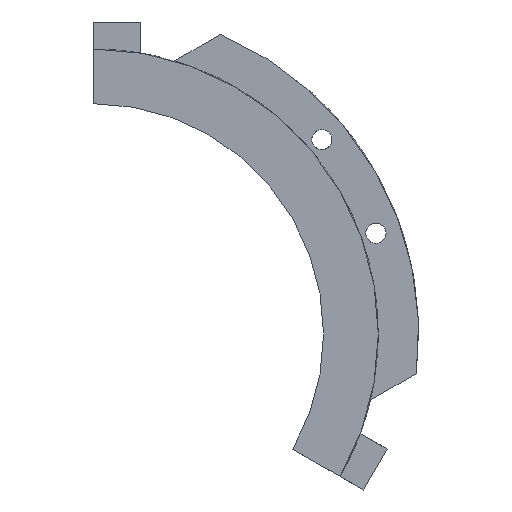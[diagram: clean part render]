
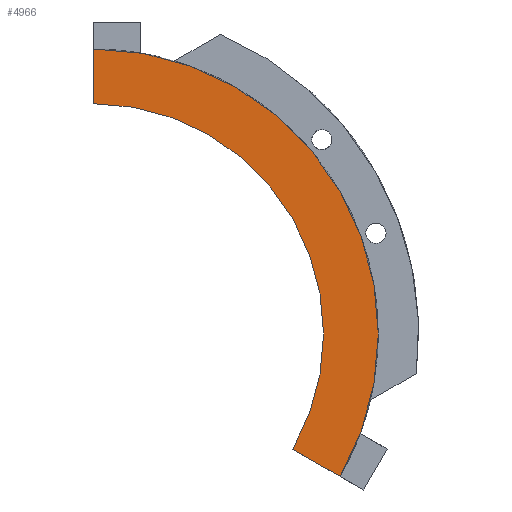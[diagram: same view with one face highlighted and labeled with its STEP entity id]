
A CAD part, left-side view. The second image highlights one B-rep face of the part: STEP entity #4966.
In plain terms, the highlighted planar face has unit normal (-1, 0, 0).
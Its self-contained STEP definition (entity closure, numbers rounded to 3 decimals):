
#32 = CYLINDRICAL_SURFACE('',#33,42.2);
#33 = AXIS2_PLACEMENT_3D('',#34,#35,#36);
#34 = CARTESIAN_POINT('',(-24.5,0.,0.));
#35 = DIRECTION('',(-1.,0.,-0.));
#36 = DIRECTION('',(0.,0.5,0.866));
#44 = PLANE('',#45);
#45 = AXIS2_PLACEMENT_3D('',#46,#47,#48);
#46 = CARTESIAN_POINT('',(-29.5,0.,200.));
#47 = DIRECTION('',(0.,1.,0.));
#48 = DIRECTION('',(0.,0.,-1.));
#101 = PLANE('',#102);
#102 = AXIS2_PLACEMENT_3D('',#103,#104,#105);
#103 = CARTESIAN_POINT('',(-29.5,0.,0.));
#104 = DIRECTION('',(0.,0.5,-0.866));
#105 = DIRECTION('',(0.,-0.866,-0.5));
#1254 = VERTEX_POINT('',#1255);
#1255 = CARTESIAN_POINT('',(-24.5,-36.546,-21.1));
#1276 = EDGE_CURVE('',#1277,#1254,#1279,.T.);
#1277 = VERTEX_POINT('',#1278);
#1278 = CARTESIAN_POINT('',(-24.5,0.,42.2));
#1279 = SURFACE_CURVE('',#1280,(#1285,#1292),.PCURVE_S1.);
#1280 = CIRCLE('',#1281,42.2);
#1281 = AXIS2_PLACEMENT_3D('',#1282,#1283,#1284);
#1282 = CARTESIAN_POINT('',(-24.5,0.,0.));
#1283 = DIRECTION('',(1.,0.,-0.));
#1284 = DIRECTION('',(0.,0.5,0.866));
#1285 = PCURVE('',#32,#1286);
#1286 = DEFINITIONAL_REPRESENTATION('',(#1287),#1291);
#1287 = LINE('',#1288,#1289);
#1288 = CARTESIAN_POINT('',(-0.,0.));
#1289 = VECTOR('',#1290,1.);
#1290 = DIRECTION('',(-1.,0.));
#1291 = ( GEOMETRIC_REPRESENTATION_CONTEXT(2) 
PARAMETRIC_REPRESENTATION_CONTEXT() REPRESENTATION_CONTEXT('2D SPACE',''
  ) );
#1292 = PCURVE('',#1293,#1298);
#1293 = PLANE('',#1294);
#1294 = AXIS2_PLACEMENT_3D('',#1295,#1296,#1297);
#1295 = CARTESIAN_POINT('',(-24.5,0.,0.
    ));
#1296 = DIRECTION('',(1.,0.,0.));
#1297 = DIRECTION('',(0.,-0.866,0.5));
#1298 = DEFINITIONAL_REPRESENTATION('',(#1299),#1303);
#1299 = CIRCLE('',#1300,42.2);
#1300 = AXIS2_PLACEMENT_2D('',#1301,#1302);
#1301 = CARTESIAN_POINT('',(0.,0.));
#1302 = DIRECTION('',(0.,-1.));
#1303 = ( GEOMETRIC_REPRESENTATION_CONTEXT(2) 
PARAMETRIC_REPRESENTATION_CONTEXT() REPRESENTATION_CONTEXT('2D SPACE',''
  ) );
#4461 = VERTEX_POINT('',#4462);
#4462 = CARTESIAN_POINT('',(-24.5,0.,34.1));
#4476 = CYLINDRICAL_SURFACE('',#4477,34.1);
#4477 = AXIS2_PLACEMENT_3D('',#4478,#4479,#4480);
#4478 = CARTESIAN_POINT('',(-24.5,0.,0.)
  );
#4479 = DIRECTION('',(-1.,0.,-0.));
#4480 = DIRECTION('',(0.,0.5,0.866));
#4488 = EDGE_CURVE('',#4461,#1277,#4489,.T.);
#4489 = SURFACE_CURVE('',#4490,(#4494,#4501),.PCURVE_S1.);
#4490 = LINE('',#4491,#4492);
#4491 = CARTESIAN_POINT('',(-24.5,0.,100.));
#4492 = VECTOR('',#4493,1.);
#4493 = DIRECTION('',(0.,0.,1.));
#4494 = PCURVE('',#44,#4495);
#4495 = DEFINITIONAL_REPRESENTATION('',(#4496),#4500);
#4496 = LINE('',#4497,#4498);
#4497 = CARTESIAN_POINT('',(100.,-5.));
#4498 = VECTOR('',#4499,1.);
#4499 = DIRECTION('',(-1.,0.));
#4500 = ( GEOMETRIC_REPRESENTATION_CONTEXT(2) 
PARAMETRIC_REPRESENTATION_CONTEXT() REPRESENTATION_CONTEXT('2D SPACE',''
  ) );
#4501 = PCURVE('',#1293,#4502);
#4502 = DEFINITIONAL_REPRESENTATION('',(#4503),#4507);
#4503 = LINE('',#4504,#4505);
#4504 = CARTESIAN_POINT('',(50.,-86.603));
#4505 = VECTOR('',#4506,1.);
#4506 = DIRECTION('',(0.5,-0.866));
#4507 = ( GEOMETRIC_REPRESENTATION_CONTEXT(2) 
PARAMETRIC_REPRESENTATION_CONTEXT() REPRESENTATION_CONTEXT('2D SPACE',''
  ) );
#4966 = ADVANCED_FACE('',(#4967),#1293,.F.);
#4967 = FACE_BOUND('',#4968,.F.);
#4968 = EDGE_LOOP('',(#4969,#4970,#4971,#4994));
#4969 = ORIENTED_EDGE('',*,*,#4488,.T.);
#4970 = ORIENTED_EDGE('',*,*,#1276,.T.);
#4971 = ORIENTED_EDGE('',*,*,#4972,.T.);
#4972 = EDGE_CURVE('',#1254,#4973,#4975,.T.);
#4973 = VERTEX_POINT('',#4974);
#4974 = CARTESIAN_POINT('',(-24.5,-29.531,-17.05));
#4975 = SURFACE_CURVE('',#4976,(#4980,#4987),.PCURVE_S1.);
#4976 = LINE('',#4977,#4978);
#4977 = CARTESIAN_POINT('',(-24.5,0.,0.
    ));
#4978 = VECTOR('',#4979,1.);
#4979 = DIRECTION('',(0.,0.866,0.5));
#4980 = PCURVE('',#1293,#4981);
#4981 = DEFINITIONAL_REPRESENTATION('',(#4982),#4986);
#4982 = LINE('',#4983,#4984);
#4983 = CARTESIAN_POINT('',(0.,0.));
#4984 = VECTOR('',#4985,1.);
#4985 = DIRECTION('',(-0.5,-0.866));
#4986 = ( GEOMETRIC_REPRESENTATION_CONTEXT(2) 
PARAMETRIC_REPRESENTATION_CONTEXT() REPRESENTATION_CONTEXT('2D SPACE',''
  ) );
#4987 = PCURVE('',#101,#4988);
#4988 = DEFINITIONAL_REPRESENTATION('',(#4989),#4993);
#4989 = LINE('',#4990,#4991);
#4990 = CARTESIAN_POINT('',(0.,-5.));
#4991 = VECTOR('',#4992,1.);
#4992 = DIRECTION('',(-1.,0.));
#4993 = ( GEOMETRIC_REPRESENTATION_CONTEXT(2) 
PARAMETRIC_REPRESENTATION_CONTEXT() REPRESENTATION_CONTEXT('2D SPACE',''
  ) );
#4994 = ORIENTED_EDGE('',*,*,#4995,.F.);
#4995 = EDGE_CURVE('',#4461,#4973,#4996,.T.);
#4996 = SURFACE_CURVE('',#4997,(#5002,#5009),.PCURVE_S1.);
#4997 = CIRCLE('',#4998,34.1);
#4998 = AXIS2_PLACEMENT_3D('',#4999,#5000,#5001);
#4999 = CARTESIAN_POINT('',(-24.5,0.,0.)
  );
#5000 = DIRECTION('',(1.,0.,-0.));
#5001 = DIRECTION('',(0.,0.5,0.866));
#5002 = PCURVE('',#1293,#5003);
#5003 = DEFINITIONAL_REPRESENTATION('',(#5004),#5008);
#5004 = CIRCLE('',#5005,34.1);
#5005 = AXIS2_PLACEMENT_2D('',#5006,#5007);
#5006 = CARTESIAN_POINT('',(0.,0.));
#5007 = DIRECTION('',(0.,-1.));
#5008 = ( GEOMETRIC_REPRESENTATION_CONTEXT(2) 
PARAMETRIC_REPRESENTATION_CONTEXT() REPRESENTATION_CONTEXT('2D SPACE',''
  ) );
#5009 = PCURVE('',#4476,#5010);
#5010 = DEFINITIONAL_REPRESENTATION('',(#5011),#5015);
#5011 = LINE('',#5012,#5013);
#5012 = CARTESIAN_POINT('',(-0.,0.));
#5013 = VECTOR('',#5014,1.);
#5014 = DIRECTION('',(-1.,0.));
#5015 = ( GEOMETRIC_REPRESENTATION_CONTEXT(2) 
PARAMETRIC_REPRESENTATION_CONTEXT() REPRESENTATION_CONTEXT('2D SPACE',''
  ) );
